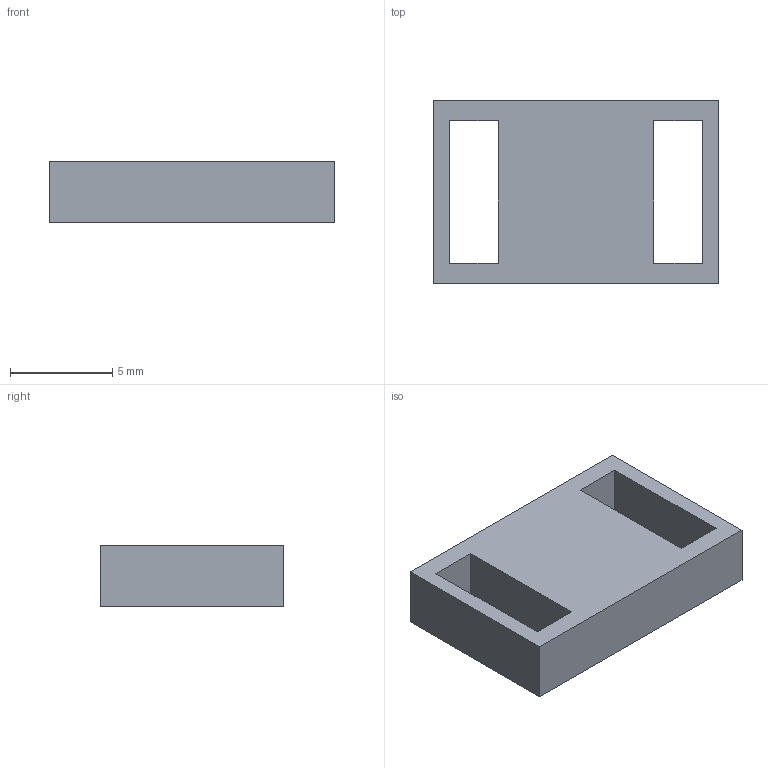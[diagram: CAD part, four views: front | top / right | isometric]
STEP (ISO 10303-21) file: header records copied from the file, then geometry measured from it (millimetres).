
FILE_DESCRIPTION(('FreeCAD Model'),'2;1');
FILE_NAME('Open CASCADE Shape Model','2026-11-02T01:51:26',('FreeCAD'),( 'FreeCAD'),'Open CASCADE STEP processor 7.8','FreeCAD','Unknown');
FILE_SCHEMA(('AUTOMOTIVE_DESIGN { 1 0 10303 214 1 1 1 1 }'));
Length unit declared in the file: millimetre
Products named in the file (1): Open CASCADE STEP translator 7.8 6
Bounding box: 14 x 9 x 3 mm (x, y, z)
Volume: 277.2 mm3; surface area: 435.6 mm2
Topology: 1 solids, 1 shells, 14 faces, 36 edges, 24 vertices
Faces by surface type: plane 14
Entity records: 438 total; most frequent: CARTESIAN_POINT 75, ORIENTED_EDGE 72, DIRECTION 66, EDGE_CURVE 36, LINE 36, VECTOR 36, VERTEX_POINT 24, FACE_BOUND 18
